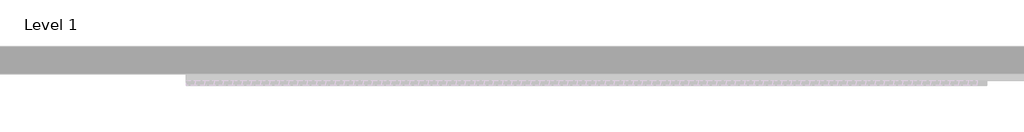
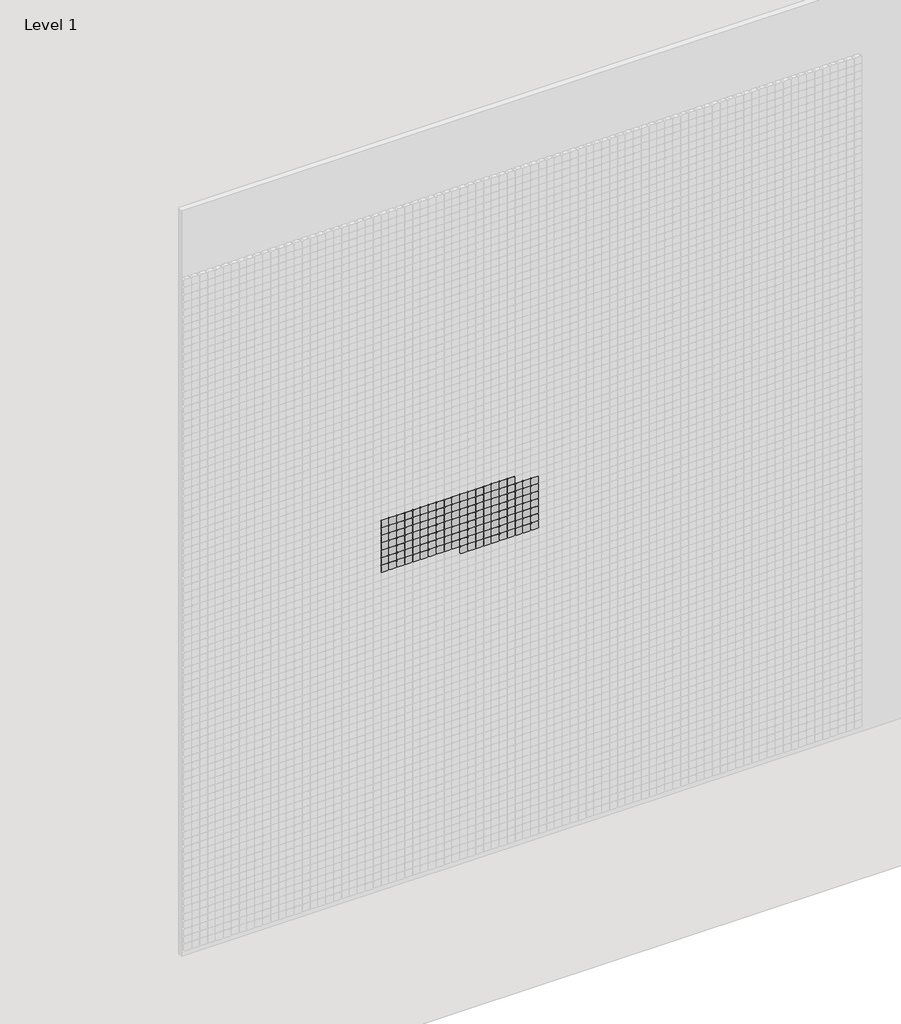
# One storey, part 28 of 71: 147 proxies.
"""IFC4 building model written with IfcOpenShell, lengths in millimetres."""

from ifc_helpers import new_model, si_unit, origin, place, context, project, spatial, transform, mapped, element, save
from components import generic_models_afde289c

model = new_model("IFC4")

# Units and contexts
model_context = context("Model", 3, world=origin())
ifc_project = project(units=[si_unit("LENGTHUNIT", "METRE", prefix="MILLI")], contexts=[model_context])

# Site, building, storey
site = spatial("IfcSite", under=ifc_project)
building = spatial("IfcBuilding", under=site)
storey = spatial("IfcBuildingStorey", under=building, Name="Level 1", Elevation=0.0)

# Proxies
placement = place(None, origin())
generic_models_shape = generic_models_afde289c(model_context)
element("IfcBuildingElementProxy", 1, Name="Pixel_M : Pixel_M", ObjectType="Pixel_M : Pixel_M", at=placement, inside=storey, context=model_context, shape_type="MappedRepresentation", body=[
    mapped(generic_models_shape, transform((6812.4280941, -75.0, 3466.3566215), x_axis=(1.0, 0.0, 0.0), y_axis=(0.0, 0.0, 1.0), z_axis=(0.0, -1.0, 0.0))),
])
element("IfcBuildingElementProxy", 2, Name="Pixel_M : Pixel_M", ObjectType="Pixel_M : Pixel_M", at=placement, inside=storey, context=model_context, shape_type="MappedRepresentation", body=[
    mapped(generic_models_shape, transform((6762.4280941, -75.0, 3466.3566215), x_axis=(1.0, 0.0, 0.0), y_axis=(0.0, 0.0, 1.0), z_axis=(0.0, -1.0, 0.0))),
])
element("IfcBuildingElementProxy", 3, Name="Pixel_M : Pixel_M", ObjectType="Pixel_M : Pixel_M", at=placement, inside=storey, context=model_context, shape_type="MappedRepresentation", body=[
    mapped(generic_models_shape, transform((6712.4280941, -75.0, 3466.3566215), x_axis=(1.0, 0.0, 0.0), y_axis=(0.0, 0.0, 1.0), z_axis=(0.0, -1.0, 0.0))),
])
element("IfcBuildingElementProxy", 4, Name="Pixel_M : Pixel_M", ObjectType="Pixel_M : Pixel_M", at=placement, inside=storey, context=model_context, shape_type="MappedRepresentation", body=[
    mapped(generic_models_shape, transform((6662.4280941, -75.0, 3466.3566215), x_axis=(1.0, 0.0, 0.0), y_axis=(0.0, 0.0, 1.0), z_axis=(0.0, -1.0, 0.0))),
])
element("IfcBuildingElementProxy", 5, Name="Pixel_M : Pixel_M", ObjectType="Pixel_M : Pixel_M", at=placement, inside=storey, context=model_context, shape_type="MappedRepresentation", body=[
    mapped(generic_models_shape, transform((6612.4280941, -75.0, 3466.3566215), x_axis=(1.0, 0.0, 0.0), y_axis=(0.0, 0.0, 1.0), z_axis=(0.0, -1.0, 0.0))),
])
element("IfcBuildingElementProxy", 6, Name="Pixel_M : Pixel_M", ObjectType="Pixel_M : Pixel_M", at=placement, inside=storey, context=model_context, shape_type="MappedRepresentation", body=[
    mapped(generic_models_shape, transform((6562.4280941, -75.0, 3466.3566215), x_axis=(1.0, 0.0, 0.0), y_axis=(0.0, 0.0, 1.0), z_axis=(0.0, -1.0, 0.0))),
])
element("IfcBuildingElementProxy", 7, Name="Pixel_M : Pixel_M", ObjectType="Pixel_M : Pixel_M", at=placement, inside=storey, context=model_context, shape_type="MappedRepresentation", body=[
    mapped(generic_models_shape, transform((6512.4280941, -75.0, 3466.3566215), x_axis=(1.0, 0.0, 0.0), y_axis=(0.0, 0.0, 1.0), z_axis=(0.0, -1.0, 0.0))),
])
element("IfcBuildingElementProxy", 8, Name="Pixel_M : Pixel_M", ObjectType="Pixel_M : Pixel_M", at=placement, inside=storey, context=model_context, shape_type="MappedRepresentation", body=[
    mapped(generic_models_shape, transform((6462.4280941, -75.0, 3466.3566215), x_axis=(1.0, 0.0, 0.0), y_axis=(0.0, 0.0, 1.0), z_axis=(0.0, -1.0, 0.0))),
])
element("IfcBuildingElementProxy", 9, Name="Pixel_M : Pixel_M", ObjectType="Pixel_M : Pixel_M", at=placement, inside=storey, context=model_context, shape_type="MappedRepresentation", body=[
    mapped(generic_models_shape, transform((6412.4280941, -75.0, 3466.3566215), x_axis=(1.0, 0.0, 0.0), y_axis=(0.0, 0.0, 1.0), z_axis=(0.0, -1.0, 0.0))),
])
element("IfcBuildingElementProxy", 10, Name="Pixel_M : Pixel_M", ObjectType="Pixel_M : Pixel_M", at=placement, inside=storey, context=model_context, shape_type="MappedRepresentation", body=[
    mapped(generic_models_shape, transform((6362.4280941, -75.0, 3466.3566215), x_axis=(1.0, 0.0, 0.0), y_axis=(0.0, 0.0, 1.0), z_axis=(0.0, -1.0, 0.0))),
])
element("IfcBuildingElementProxy", 11, Name="Pixel_M : Pixel_M", ObjectType="Pixel_M : Pixel_M", at=placement, inside=storey, context=model_context, shape_type="MappedRepresentation", body=[
    mapped(generic_models_shape, transform((6312.4280941, -75.0, 3466.3566215), x_axis=(1.0, 0.0, 0.0), y_axis=(0.0, 0.0, 1.0), z_axis=(0.0, -1.0, 0.0))),
])
element("IfcBuildingElementProxy", 12, Name="Pixel_M : Pixel_M", ObjectType="Pixel_M : Pixel_M", at=placement, inside=storey, context=model_context, shape_type="MappedRepresentation", body=[
    mapped(generic_models_shape, transform((6262.4280941, -75.0, 3466.3566215), x_axis=(1.0, 0.0, 0.0), y_axis=(0.0, 0.0, 1.0), z_axis=(0.0, -1.0, 0.0))),
])
element("IfcBuildingElementProxy", 13, Name="Pixel_M : Pixel_M", ObjectType="Pixel_M : Pixel_M", at=placement, inside=storey, context=model_context, shape_type="MappedRepresentation", body=[
    mapped(generic_models_shape, transform((6212.4280941, -75.0, 3466.3566215), x_axis=(1.0, 0.0, 0.0), y_axis=(0.0, 0.0, 1.0), z_axis=(0.0, -1.0, 0.0))),
])
element("IfcBuildingElementProxy", 14, Name="Pixel_M : Pixel_M", ObjectType="Pixel_M : Pixel_M", at=placement, inside=storey, context=model_context, shape_type="MappedRepresentation", body=[
    mapped(generic_models_shape, transform((6162.4280941, -75.0, 3466.3566215), x_axis=(1.0, 0.0, 0.0), y_axis=(0.0, 0.0, 1.0), z_axis=(0.0, -1.0, 0.0))),
])
element("IfcBuildingElementProxy", 15, Name="Pixel_M : Pixel_M", ObjectType="Pixel_M : Pixel_M", at=placement, inside=storey, context=model_context, shape_type="MappedRepresentation", body=[
    mapped(generic_models_shape, transform((6112.4280941, -75.0, 3466.3566215), x_axis=(1.0, 0.0, 0.0), y_axis=(0.0, 0.0, 1.0), z_axis=(0.0, -1.0, 0.0))),
])
element("IfcBuildingElementProxy", 16, Name="Pixel_M : Pixel_M", ObjectType="Pixel_M : Pixel_M", at=placement, inside=storey, context=model_context, shape_type="MappedRepresentation", body=[
    mapped(generic_models_shape, transform((6062.4280941, -75.0, 3466.3566215), x_axis=(1.0, 0.0, 0.0), y_axis=(0.0, 0.0, 1.0), z_axis=(0.0, -1.0, 0.0))),
])
element("IfcBuildingElementProxy", 17, Name="Pixel_M : Pixel_M", ObjectType="Pixel_M : Pixel_M", at=placement, inside=storey, context=model_context, shape_type="MappedRepresentation", body=[
    mapped(generic_models_shape, transform((6012.4280941, -75.0, 3466.3566215), x_axis=(1.0, 0.0, 0.0), y_axis=(0.0, 0.0, 1.0), z_axis=(0.0, -1.0, 0.0))),
])
element("IfcBuildingElementProxy", 18, Name="Pixel_M : Pixel_M", ObjectType="Pixel_M : Pixel_M", at=placement, inside=storey, context=model_context, shape_type="MappedRepresentation", body=[
    mapped(generic_models_shape, transform((6962.4280941, -75.0, 3416.3566215), x_axis=(1.0, 0.0, 0.0), y_axis=(0.0, 0.0, 1.0), z_axis=(0.0, -1.0, 0.0))),
])
element("IfcBuildingElementProxy", 19, Name="Pixel_M : Pixel_M", ObjectType="Pixel_M : Pixel_M", at=placement, inside=storey, context=model_context, shape_type="MappedRepresentation", body=[
    mapped(generic_models_shape, transform((6912.4280941, -75.0, 3416.3566215), x_axis=(1.0, 0.0, 0.0), y_axis=(0.0, 0.0, 1.0), z_axis=(0.0, -1.0, 0.0))),
])
element("IfcBuildingElementProxy", 20, Name="Pixel_M : Pixel_M", ObjectType="Pixel_M : Pixel_M", at=placement, inside=storey, context=model_context, shape_type="MappedRepresentation", body=[
    mapped(generic_models_shape, transform((6862.4280941, -75.0, 3416.3566215), x_axis=(1.0, 0.0, 0.0), y_axis=(0.0, 0.0, 1.0), z_axis=(0.0, -1.0, 0.0))),
])
element("IfcBuildingElementProxy", 21, Name="Pixel_M : Pixel_M", ObjectType="Pixel_M : Pixel_M", at=placement, inside=storey, context=model_context, shape_type="MappedRepresentation", body=[
    mapped(generic_models_shape, transform((6812.4280941, -75.0, 3416.3566215), x_axis=(1.0, 0.0, 0.0), y_axis=(0.0, 0.0, 1.0), z_axis=(0.0, -1.0, 0.0))),
])
element("IfcBuildingElementProxy", 22, Name="Pixel_M : Pixel_M", ObjectType="Pixel_M : Pixel_M", at=placement, inside=storey, context=model_context, shape_type="MappedRepresentation", body=[
    mapped(generic_models_shape, transform((6762.4280941, -75.0, 3416.3566215), x_axis=(1.0, 0.0, 0.0), y_axis=(0.0, 0.0, 1.0), z_axis=(0.0, -1.0, 0.0))),
])
element("IfcBuildingElementProxy", 23, Name="Pixel_M : Pixel_M", ObjectType="Pixel_M : Pixel_M", at=placement, inside=storey, context=model_context, shape_type="MappedRepresentation", body=[
    mapped(generic_models_shape, transform((6712.4280941, -75.0, 3416.3566215), x_axis=(1.0, 0.0, 0.0), y_axis=(0.0, 0.0, 1.0), z_axis=(0.0, -1.0, 0.0))),
])
element("IfcBuildingElementProxy", 24, Name="Pixel_M : Pixel_M", ObjectType="Pixel_M : Pixel_M", at=placement, inside=storey, context=model_context, shape_type="MappedRepresentation", body=[
    mapped(generic_models_shape, transform((6662.4280941, -75.0, 3416.3566215), x_axis=(1.0, 0.0, 0.0), y_axis=(0.0, 0.0, 1.0), z_axis=(0.0, -1.0, 0.0))),
])
element("IfcBuildingElementProxy", 25, Name="Pixel_M : Pixel_M", ObjectType="Pixel_M : Pixel_M", at=placement, inside=storey, context=model_context, shape_type="MappedRepresentation", body=[
    mapped(generic_models_shape, transform((6612.4280941, -75.0, 3416.3566215), x_axis=(1.0, 0.0, 0.0), y_axis=(0.0, 0.0, 1.0), z_axis=(0.0, -1.0, 0.0))),
])
element("IfcBuildingElementProxy", 26, Name="Pixel_M : Pixel_M", ObjectType="Pixel_M : Pixel_M", at=placement, inside=storey, context=model_context, shape_type="MappedRepresentation", body=[
    mapped(generic_models_shape, transform((6562.4280941, -75.0, 3416.3566215), x_axis=(1.0, 0.0, 0.0), y_axis=(0.0, 0.0, 1.0), z_axis=(0.0, -1.0, 0.0))),
])
element("IfcBuildingElementProxy", 27, Name="Pixel_M : Pixel_M", ObjectType="Pixel_M : Pixel_M", at=placement, inside=storey, context=model_context, shape_type="MappedRepresentation", body=[
    mapped(generic_models_shape, transform((6512.4280941, -75.0, 3416.3566215), x_axis=(1.0, 0.0, 0.0), y_axis=(0.0, 0.0, 1.0), z_axis=(0.0, -1.0, 0.0))),
])
element("IfcBuildingElementProxy", 28, Name="Pixel_M : Pixel_M", ObjectType="Pixel_M : Pixel_M", at=placement, inside=storey, context=model_context, shape_type="MappedRepresentation", body=[
    mapped(generic_models_shape, transform((6462.4280941, -75.0, 3416.3566215), x_axis=(1.0, 0.0, 0.0), y_axis=(0.0, 0.0, 1.0), z_axis=(0.0, -1.0, 0.0))),
])
element("IfcBuildingElementProxy", 29, Name="Pixel_M : Pixel_M", ObjectType="Pixel_M : Pixel_M", at=placement, inside=storey, context=model_context, shape_type="MappedRepresentation", body=[
    mapped(generic_models_shape, transform((6412.4280941, -75.0, 3416.3566215), x_axis=(1.0, 0.0, 0.0), y_axis=(0.0, 0.0, 1.0), z_axis=(0.0, -1.0, 0.0))),
])
element("IfcBuildingElementProxy", 30, Name="Pixel_M : Pixel_M", ObjectType="Pixel_M : Pixel_M", at=placement, inside=storey, context=model_context, shape_type="MappedRepresentation", body=[
    mapped(generic_models_shape, transform((6362.4280941, -75.0, 3416.3566215), x_axis=(1.0, 0.0, 0.0), y_axis=(0.0, 0.0, 1.0), z_axis=(0.0, -1.0, 0.0))),
])
element("IfcBuildingElementProxy", 31, Name="Pixel_M : Pixel_M", ObjectType="Pixel_M : Pixel_M", at=placement, inside=storey, context=model_context, shape_type="MappedRepresentation", body=[
    mapped(generic_models_shape, transform((6312.4280941, -75.0, 3416.3566215), x_axis=(1.0, 0.0, 0.0), y_axis=(0.0, 0.0, 1.0), z_axis=(0.0, -1.0, 0.0))),
])
element("IfcBuildingElementProxy", 32, Name="Pixel_M : Pixel_M", ObjectType="Pixel_M : Pixel_M", at=placement, inside=storey, context=model_context, shape_type="MappedRepresentation", body=[
    mapped(generic_models_shape, transform((6262.4280941, -75.0, 3416.3566215), x_axis=(1.0, 0.0, 0.0), y_axis=(0.0, 0.0, 1.0), z_axis=(0.0, -1.0, 0.0))),
])
element("IfcBuildingElementProxy", 33, Name="Pixel_M : Pixel_M", ObjectType="Pixel_M : Pixel_M", at=placement, inside=storey, context=model_context, shape_type="MappedRepresentation", body=[
    mapped(generic_models_shape, transform((6212.4280941, -75.0, 3416.3566215), x_axis=(1.0, 0.0, 0.0), y_axis=(0.0, 0.0, 1.0), z_axis=(0.0, -1.0, 0.0))),
])
element("IfcBuildingElementProxy", 34, Name="Pixel_M : Pixel_M", ObjectType="Pixel_M : Pixel_M", at=placement, inside=storey, context=model_context, shape_type="MappedRepresentation", body=[
    mapped(generic_models_shape, transform((6162.4280941, -75.0, 3416.3566215), x_axis=(1.0, 0.0, 0.0), y_axis=(0.0, 0.0, 1.0), z_axis=(0.0, -1.0, 0.0))),
])
element("IfcBuildingElementProxy", 35, Name="Pixel_M : Pixel_M", ObjectType="Pixel_M : Pixel_M", at=placement, inside=storey, context=model_context, shape_type="MappedRepresentation", body=[
    mapped(generic_models_shape, transform((6112.4280941, -75.0, 3416.3566215), x_axis=(1.0, 0.0, 0.0), y_axis=(0.0, 0.0, 1.0), z_axis=(0.0, -1.0, 0.0))),
])
element("IfcBuildingElementProxy", 36, Name="Pixel_M : Pixel_M", ObjectType="Pixel_M : Pixel_M", at=placement, inside=storey, context=model_context, shape_type="MappedRepresentation", body=[
    mapped(generic_models_shape, transform((6062.4280941, -75.0, 3416.3566215), x_axis=(1.0, 0.0, 0.0), y_axis=(0.0, 0.0, 1.0), z_axis=(0.0, -1.0, 0.0))),
])
element("IfcBuildingElementProxy", 37, Name="Pixel_M : Pixel_M", ObjectType="Pixel_M : Pixel_M", at=placement, inside=storey, context=model_context, shape_type="MappedRepresentation", body=[
    mapped(generic_models_shape, transform((6012.4280941, -75.0, 3416.3566215), x_axis=(1.0, 0.0, 0.0), y_axis=(0.0, 0.0, 1.0), z_axis=(0.0, -1.0, 0.0))),
])
element("IfcBuildingElementProxy", 38, Name="Pixel_M : Pixel_M", ObjectType="Pixel_M : Pixel_M", at=placement, inside=storey, context=model_context, shape_type="MappedRepresentation", body=[
    mapped(generic_models_shape, transform((6962.4280941, -75.0, 3366.3566215), x_axis=(1.0, 0.0, 0.0), y_axis=(0.0, 0.0, 1.0), z_axis=(0.0, -1.0, 0.0))),
])
element("IfcBuildingElementProxy", 39, Name="Pixel_M : Pixel_M", ObjectType="Pixel_M : Pixel_M", at=placement, inside=storey, context=model_context, shape_type="MappedRepresentation", body=[
    mapped(generic_models_shape, transform((6912.4280941, -75.0, 3366.3566215), x_axis=(1.0, 0.0, 0.0), y_axis=(0.0, 0.0, 1.0), z_axis=(0.0, -1.0, 0.0))),
])
element("IfcBuildingElementProxy", 40, Name="Pixel_M : Pixel_M", ObjectType="Pixel_M : Pixel_M", at=placement, inside=storey, context=model_context, shape_type="MappedRepresentation", body=[
    mapped(generic_models_shape, transform((6862.4280941, -75.0, 3366.3566215), x_axis=(1.0, 0.0, 0.0), y_axis=(0.0, 0.0, 1.0), z_axis=(0.0, -1.0, 0.0))),
])
element("IfcBuildingElementProxy", 41, Name="Pixel_M : Pixel_M", ObjectType="Pixel_M : Pixel_M", at=placement, inside=storey, context=model_context, shape_type="MappedRepresentation", body=[
    mapped(generic_models_shape, transform((6812.4280941, -75.0, 3366.3566215), x_axis=(1.0, 0.0, 0.0), y_axis=(0.0, 0.0, 1.0), z_axis=(0.0, -1.0, 0.0))),
])
element("IfcBuildingElementProxy", 42, Name="Pixel_M : Pixel_M", ObjectType="Pixel_M : Pixel_M", at=placement, inside=storey, context=model_context, shape_type="MappedRepresentation", body=[
    mapped(generic_models_shape, transform((6762.4280941, -75.0, 3366.3566215), x_axis=(1.0, 0.0, 0.0), y_axis=(0.0, 0.0, 1.0), z_axis=(0.0, -1.0, 0.0))),
])
element("IfcBuildingElementProxy", 43, Name="Pixel_M : Pixel_M", ObjectType="Pixel_M : Pixel_M", at=placement, inside=storey, context=model_context, shape_type="MappedRepresentation", body=[
    mapped(generic_models_shape, transform((6712.4280941, -75.0, 3366.3566215), x_axis=(1.0, 0.0, 0.0), y_axis=(0.0, 0.0, 1.0), z_axis=(0.0, -1.0, 0.0))),
])
element("IfcBuildingElementProxy", 44, Name="Pixel_M : Pixel_M", ObjectType="Pixel_M : Pixel_M", at=placement, inside=storey, context=model_context, shape_type="MappedRepresentation", body=[
    mapped(generic_models_shape, transform((6662.4280941, -75.0, 3366.3566215), x_axis=(1.0, 0.0, 0.0), y_axis=(0.0, 0.0, 1.0), z_axis=(0.0, -1.0, 0.0))),
])
element("IfcBuildingElementProxy", 45, Name="Pixel_M : Pixel_M", ObjectType="Pixel_M : Pixel_M", at=placement, inside=storey, context=model_context, shape_type="MappedRepresentation", body=[
    mapped(generic_models_shape, transform((6612.4280941, -75.0, 3366.3566215), x_axis=(1.0, 0.0, 0.0), y_axis=(0.0, 0.0, 1.0), z_axis=(0.0, -1.0, 0.0))),
])
element("IfcBuildingElementProxy", 46, Name="Pixel_M : Pixel_M", ObjectType="Pixel_M : Pixel_M", at=placement, inside=storey, context=model_context, shape_type="MappedRepresentation", body=[
    mapped(generic_models_shape, transform((6562.4280941, -75.0, 3366.3566215), x_axis=(1.0, 0.0, 0.0), y_axis=(0.0, 0.0, 1.0), z_axis=(0.0, -1.0, 0.0))),
])
element("IfcBuildingElementProxy", 47, Name="Pixel_M : Pixel_M", ObjectType="Pixel_M : Pixel_M", at=placement, inside=storey, context=model_context, shape_type="MappedRepresentation", body=[
    mapped(generic_models_shape, transform((6512.4280941, -75.0, 3366.3566215), x_axis=(1.0, 0.0, 0.0), y_axis=(0.0, 0.0, 1.0), z_axis=(0.0, -1.0, 0.0))),
])
element("IfcBuildingElementProxy", 48, Name="Pixel_M : Pixel_M", ObjectType="Pixel_M : Pixel_M", at=placement, inside=storey, context=model_context, shape_type="MappedRepresentation", body=[
    mapped(generic_models_shape, transform((6462.4280941, -75.0, 3366.3566215), x_axis=(1.0, 0.0, 0.0), y_axis=(0.0, 0.0, 1.0), z_axis=(0.0, -1.0, 0.0))),
])
element("IfcBuildingElementProxy", 49, Name="Pixel_M : Pixel_M", ObjectType="Pixel_M : Pixel_M", at=placement, inside=storey, context=model_context, shape_type="MappedRepresentation", body=[
    mapped(generic_models_shape, transform((6412.4280941, -75.0, 3366.3566215), x_axis=(1.0, 0.0, 0.0), y_axis=(0.0, 0.0, 1.0), z_axis=(0.0, -1.0, 0.0))),
])
element("IfcBuildingElementProxy", 50, Name="Pixel_M : Pixel_M", ObjectType="Pixel_M : Pixel_M", at=placement, inside=storey, context=model_context, shape_type="MappedRepresentation", body=[
    mapped(generic_models_shape, transform((6362.4280941, -75.0, 3366.3566215), x_axis=(1.0, 0.0, 0.0), y_axis=(0.0, 0.0, 1.0), z_axis=(0.0, -1.0, 0.0))),
])
element("IfcBuildingElementProxy", 51, Name="Pixel_M : Pixel_M", ObjectType="Pixel_M : Pixel_M", at=placement, inside=storey, context=model_context, shape_type="MappedRepresentation", body=[
    mapped(generic_models_shape, transform((6312.4280941, -75.0, 3366.3566215), x_axis=(1.0, 0.0, 0.0), y_axis=(0.0, 0.0, 1.0), z_axis=(0.0, -1.0, 0.0))),
])
element("IfcBuildingElementProxy", 52, Name="Pixel_M : Pixel_M", ObjectType="Pixel_M : Pixel_M", at=placement, inside=storey, context=model_context, shape_type="MappedRepresentation", body=[
    mapped(generic_models_shape, transform((6262.4280941, -75.0, 3366.3566215), x_axis=(1.0, 0.0, 0.0), y_axis=(0.0, 0.0, 1.0), z_axis=(0.0, -1.0, 0.0))),
])
element("IfcBuildingElementProxy", 53, Name="Pixel_M : Pixel_M", ObjectType="Pixel_M : Pixel_M", at=placement, inside=storey, context=model_context, shape_type="MappedRepresentation", body=[
    mapped(generic_models_shape, transform((6212.4280941, -75.0, 3366.3566215), x_axis=(1.0, 0.0, 0.0), y_axis=(0.0, 0.0, 1.0), z_axis=(0.0, -1.0, 0.0))),
])
element("IfcBuildingElementProxy", 54, Name="Pixel_M : Pixel_M", ObjectType="Pixel_M : Pixel_M", at=placement, inside=storey, context=model_context, shape_type="MappedRepresentation", body=[
    mapped(generic_models_shape, transform((6162.4280941, -75.0, 3366.3566215), x_axis=(1.0, 0.0, 0.0), y_axis=(0.0, 0.0, 1.0), z_axis=(0.0, -1.0, 0.0))),
])
element("IfcBuildingElementProxy", 55, Name="Pixel_M : Pixel_M", ObjectType="Pixel_M : Pixel_M", at=placement, inside=storey, context=model_context, shape_type="MappedRepresentation", body=[
    mapped(generic_models_shape, transform((6112.4280941, -75.0, 3366.3566215), x_axis=(1.0, 0.0, 0.0), y_axis=(0.0, 0.0, 1.0), z_axis=(0.0, -1.0, 0.0))),
])
element("IfcBuildingElementProxy", 56, Name="Pixel_M : Pixel_M", ObjectType="Pixel_M : Pixel_M", at=placement, inside=storey, context=model_context, shape_type="MappedRepresentation", body=[
    mapped(generic_models_shape, transform((6062.4280941, -75.0, 3366.3566215), x_axis=(1.0, 0.0, 0.0), y_axis=(0.0, 0.0, 1.0), z_axis=(0.0, -1.0, 0.0))),
])
element("IfcBuildingElementProxy", 57, Name="Pixel_M : Pixel_M", ObjectType="Pixel_M : Pixel_M", at=placement, inside=storey, context=model_context, shape_type="MappedRepresentation", body=[
    mapped(generic_models_shape, transform((6012.4280941, -75.0, 3366.3566215), x_axis=(1.0, 0.0, 0.0), y_axis=(0.0, 0.0, 1.0), z_axis=(0.0, -1.0, 0.0))),
])
element("IfcBuildingElementProxy", 58, Name="Pixel_M : Pixel_M", ObjectType="Pixel_M : Pixel_M", at=placement, inside=storey, context=model_context, shape_type="MappedRepresentation", body=[
    mapped(generic_models_shape, transform((6962.4280941, -75.0, 3316.3566215), x_axis=(1.0, 0.0, 0.0), y_axis=(0.0, 0.0, 1.0), z_axis=(0.0, -1.0, 0.0))),
])
element("IfcBuildingElementProxy", 59, Name="Pixel_M : Pixel_M", ObjectType="Pixel_M : Pixel_M", at=placement, inside=storey, context=model_context, shape_type="MappedRepresentation", body=[
    mapped(generic_models_shape, transform((6912.4280941, -75.0, 3316.3566215), x_axis=(1.0, 0.0, 0.0), y_axis=(0.0, 0.0, 1.0), z_axis=(0.0, -1.0, 0.0))),
])
element("IfcBuildingElementProxy", 60, Name="Pixel_M : Pixel_M", ObjectType="Pixel_M : Pixel_M", at=placement, inside=storey, context=model_context, shape_type="MappedRepresentation", body=[
    mapped(generic_models_shape, transform((6862.4280941, -75.0, 3316.3566215), x_axis=(1.0, 0.0, 0.0), y_axis=(0.0, 0.0, 1.0), z_axis=(0.0, -1.0, 0.0))),
])
element("IfcBuildingElementProxy", 61, Name="Pixel_M : Pixel_M", ObjectType="Pixel_M : Pixel_M", at=placement, inside=storey, context=model_context, shape_type="MappedRepresentation", body=[
    mapped(generic_models_shape, transform((6812.4280941, -75.0, 3316.3566215), x_axis=(1.0, 0.0, 0.0), y_axis=(0.0, 0.0, 1.0), z_axis=(0.0, -1.0, 0.0))),
])
element("IfcBuildingElementProxy", 62, Name="Pixel_M : Pixel_M", ObjectType="Pixel_M : Pixel_M", at=placement, inside=storey, context=model_context, shape_type="MappedRepresentation", body=[
    mapped(generic_models_shape, transform((6762.4280941, -75.0, 3316.3566215), x_axis=(1.0, 0.0, 0.0), y_axis=(0.0, 0.0, 1.0), z_axis=(0.0, -1.0, 0.0))),
])
element("IfcBuildingElementProxy", 63, Name="Pixel_M : Pixel_M", ObjectType="Pixel_M : Pixel_M", at=placement, inside=storey, context=model_context, shape_type="MappedRepresentation", body=[
    mapped(generic_models_shape, transform((6712.4280941, -75.0, 3316.3566215), x_axis=(1.0, 0.0, 0.0), y_axis=(0.0, 0.0, 1.0), z_axis=(0.0, -1.0, 0.0))),
])
element("IfcBuildingElementProxy", 64, Name="Pixel_M : Pixel_M", ObjectType="Pixel_M : Pixel_M", at=placement, inside=storey, context=model_context, shape_type="MappedRepresentation", body=[
    mapped(generic_models_shape, transform((6662.4280941, -75.0, 3316.3566215), x_axis=(1.0, 0.0, 0.0), y_axis=(0.0, 0.0, 1.0), z_axis=(0.0, -1.0, 0.0))),
])
element("IfcBuildingElementProxy", 65, Name="Pixel_M : Pixel_M", ObjectType="Pixel_M : Pixel_M", at=placement, inside=storey, context=model_context, shape_type="MappedRepresentation", body=[
    mapped(generic_models_shape, transform((6612.4280941, -75.0, 3316.3566215), x_axis=(1.0, 0.0, 0.0), y_axis=(0.0, 0.0, 1.0), z_axis=(0.0, -1.0, 0.0))),
])
element("IfcBuildingElementProxy", 66, Name="Pixel_M : Pixel_M", ObjectType="Pixel_M : Pixel_M", at=placement, inside=storey, context=model_context, shape_type="MappedRepresentation", body=[
    mapped(generic_models_shape, transform((6562.4280941, -75.0, 3316.3566215), x_axis=(1.0, 0.0, 0.0), y_axis=(0.0, 0.0, 1.0), z_axis=(0.0, -1.0, 0.0))),
])
element("IfcBuildingElementProxy", 67, Name="Pixel_M : Pixel_M", ObjectType="Pixel_M : Pixel_M", at=placement, inside=storey, context=model_context, shape_type="MappedRepresentation", body=[
    mapped(generic_models_shape, transform((6512.4280941, -75.0, 3316.3566215), x_axis=(1.0, 0.0, 0.0), y_axis=(0.0, 0.0, 1.0), z_axis=(0.0, -1.0, 0.0))),
])
element("IfcBuildingElementProxy", 68, Name="Pixel_M : Pixel_M", ObjectType="Pixel_M : Pixel_M", at=placement, inside=storey, context=model_context, shape_type="MappedRepresentation", body=[
    mapped(generic_models_shape, transform((6462.4280941, -75.0, 3316.3566215), x_axis=(1.0, 0.0, 0.0), y_axis=(0.0, 0.0, 1.0), z_axis=(0.0, -1.0, 0.0))),
])
element("IfcBuildingElementProxy", 69, Name="Pixel_M : Pixel_M", ObjectType="Pixel_M : Pixel_M", at=placement, inside=storey, context=model_context, shape_type="MappedRepresentation", body=[
    mapped(generic_models_shape, transform((6412.4280941, -75.0, 3316.3566215), x_axis=(1.0, 0.0, 0.0), y_axis=(0.0, 0.0, 1.0), z_axis=(0.0, -1.0, 0.0))),
])
element("IfcBuildingElementProxy", 70, Name="Pixel_M : Pixel_M", ObjectType="Pixel_M : Pixel_M", at=placement, inside=storey, context=model_context, shape_type="MappedRepresentation", body=[
    mapped(generic_models_shape, transform((6362.4280941, -75.0, 3316.3566215), x_axis=(1.0, 0.0, 0.0), y_axis=(0.0, 0.0, 1.0), z_axis=(0.0, -1.0, 0.0))),
])
element("IfcBuildingElementProxy", 71, Name="Pixel_M : Pixel_M", ObjectType="Pixel_M : Pixel_M", at=placement, inside=storey, context=model_context, shape_type="MappedRepresentation", body=[
    mapped(generic_models_shape, transform((6312.4280941, -75.0, 3316.3566215), x_axis=(1.0, 0.0, 0.0), y_axis=(0.0, 0.0, 1.0), z_axis=(0.0, -1.0, 0.0))),
])
element("IfcBuildingElementProxy", 72, Name="Pixel_M : Pixel_M", ObjectType="Pixel_M : Pixel_M", at=placement, inside=storey, context=model_context, shape_type="MappedRepresentation", body=[
    mapped(generic_models_shape, transform((6262.4280941, -75.0, 3316.3566215), x_axis=(1.0, 0.0, 0.0), y_axis=(0.0, 0.0, 1.0), z_axis=(0.0, -1.0, 0.0))),
])
element("IfcBuildingElementProxy", 73, Name="Pixel_M : Pixel_M", ObjectType="Pixel_M : Pixel_M", at=placement, inside=storey, context=model_context, shape_type="MappedRepresentation", body=[
    mapped(generic_models_shape, transform((6212.4280941, -75.0, 3316.3566215), x_axis=(1.0, 0.0, 0.0), y_axis=(0.0, 0.0, 1.0), z_axis=(0.0, -1.0, 0.0))),
])
element("IfcBuildingElementProxy", 74, Name="Pixel_M : Pixel_M", ObjectType="Pixel_M : Pixel_M", at=placement, inside=storey, context=model_context, shape_type="MappedRepresentation", body=[
    mapped(generic_models_shape, transform((6162.4280941, -75.0, 3316.3566215), x_axis=(1.0, 0.0, 0.0), y_axis=(0.0, 0.0, 1.0), z_axis=(0.0, -1.0, 0.0))),
])
element("IfcBuildingElementProxy", 75, Name="Pixel_M : Pixel_M", ObjectType="Pixel_M : Pixel_M", at=placement, inside=storey, context=model_context, shape_type="MappedRepresentation", body=[
    mapped(generic_models_shape, transform((6112.4280941, -75.0, 3316.3566215), x_axis=(1.0, 0.0, 0.0), y_axis=(0.0, 0.0, 1.0), z_axis=(0.0, -1.0, 0.0))),
])
element("IfcBuildingElementProxy", 76, Name="Pixel_M : Pixel_M", ObjectType="Pixel_M : Pixel_M", at=placement, inside=storey, context=model_context, shape_type="MappedRepresentation", body=[
    mapped(generic_models_shape, transform((6062.4280941, -75.0, 3316.3566215), x_axis=(1.0, 0.0, 0.0), y_axis=(0.0, 0.0, 1.0), z_axis=(0.0, -1.0, 0.0))),
])
element("IfcBuildingElementProxy", 77, Name="Pixel_M : Pixel_M", ObjectType="Pixel_M : Pixel_M", at=placement, inside=storey, context=model_context, shape_type="MappedRepresentation", body=[
    mapped(generic_models_shape, transform((6012.4280941, -75.0, 3316.3566215), x_axis=(1.0, 0.0, 0.0), y_axis=(0.0, 0.0, 1.0), z_axis=(0.0, -1.0, 0.0))),
])
element("IfcBuildingElementProxy", 78, Name="Pixel_M : Pixel_M", ObjectType="Pixel_M : Pixel_M", at=placement, inside=storey, context=model_context, shape_type="MappedRepresentation", body=[
    mapped(generic_models_shape, transform((6962.4280941, -75.0, 3266.3566215), x_axis=(1.0, 0.0, 0.0), y_axis=(0.0, 0.0, 1.0), z_axis=(0.0, -1.0, 0.0))),
])
element("IfcBuildingElementProxy", 79, Name="Pixel_M : Pixel_M", ObjectType="Pixel_M : Pixel_M", at=placement, inside=storey, context=model_context, shape_type="MappedRepresentation", body=[
    mapped(generic_models_shape, transform((6912.4280941, -75.0, 3266.3566215), x_axis=(1.0, 0.0, 0.0), y_axis=(0.0, 0.0, 1.0), z_axis=(0.0, -1.0, 0.0))),
])
element("IfcBuildingElementProxy", 80, Name="Pixel_M : Pixel_M", ObjectType="Pixel_M : Pixel_M", at=placement, inside=storey, context=model_context, shape_type="MappedRepresentation", body=[
    mapped(generic_models_shape, transform((6862.4280941, -75.0, 3266.3566215), x_axis=(1.0, 0.0, 0.0), y_axis=(0.0, 0.0, 1.0), z_axis=(0.0, -1.0, 0.0))),
])
element("IfcBuildingElementProxy", 81, Name="Pixel_M : Pixel_M", ObjectType="Pixel_M : Pixel_M", at=placement, inside=storey, context=model_context, shape_type="MappedRepresentation", body=[
    mapped(generic_models_shape, transform((6812.4280941, -75.0, 3266.3566215), x_axis=(1.0, 0.0, 0.0), y_axis=(0.0, 0.0, 1.0), z_axis=(0.0, -1.0, 0.0))),
])
element("IfcBuildingElementProxy", 82, Name="Pixel_M : Pixel_M", ObjectType="Pixel_M : Pixel_M", at=placement, inside=storey, context=model_context, shape_type="MappedRepresentation", body=[
    mapped(generic_models_shape, transform((6762.4280941, -75.0, 3266.3566215), x_axis=(1.0, 0.0, 0.0), y_axis=(0.0, 0.0, 1.0), z_axis=(0.0, -1.0, 0.0))),
])
element("IfcBuildingElementProxy", 83, Name="Pixel_M : Pixel_M", ObjectType="Pixel_M : Pixel_M", at=placement, inside=storey, context=model_context, shape_type="MappedRepresentation", body=[
    mapped(generic_models_shape, transform((6712.4280941, -75.0, 3266.3566215), x_axis=(1.0, 0.0, 0.0), y_axis=(0.0, 0.0, 1.0), z_axis=(0.0, -1.0, 0.0))),
])
element("IfcBuildingElementProxy", 84, Name="Pixel_M : Pixel_M", ObjectType="Pixel_M : Pixel_M", at=placement, inside=storey, context=model_context, shape_type="MappedRepresentation", body=[
    mapped(generic_models_shape, transform((6662.4280941, -75.0, 3266.3566215), x_axis=(1.0, 0.0, 0.0), y_axis=(0.0, 0.0, 1.0), z_axis=(0.0, -1.0, 0.0))),
])
element("IfcBuildingElementProxy", 85, Name="Pixel_M : Pixel_M", ObjectType="Pixel_M : Pixel_M", at=placement, inside=storey, context=model_context, shape_type="MappedRepresentation", body=[
    mapped(generic_models_shape, transform((6612.4280941, -75.0, 3266.3566215), x_axis=(1.0, 0.0, 0.0), y_axis=(0.0, 0.0, 1.0), z_axis=(0.0, -1.0, 0.0))),
])
element("IfcBuildingElementProxy", 86, Name="Pixel_M : Pixel_M", ObjectType="Pixel_M : Pixel_M", at=placement, inside=storey, context=model_context, shape_type="MappedRepresentation", body=[
    mapped(generic_models_shape, transform((6562.4280941, -75.0, 3266.3566215), x_axis=(1.0, 0.0, 0.0), y_axis=(0.0, 0.0, 1.0), z_axis=(0.0, -1.0, 0.0))),
])
element("IfcBuildingElementProxy", 87, Name="Pixel_M : Pixel_M", ObjectType="Pixel_M : Pixel_M", at=placement, inside=storey, context=model_context, shape_type="MappedRepresentation", body=[
    mapped(generic_models_shape, transform((6512.4280941, -75.0, 3266.3566215), x_axis=(1.0, 0.0, 0.0), y_axis=(0.0, 0.0, 1.0), z_axis=(0.0, -1.0, 0.0))),
])
element("IfcBuildingElementProxy", 88, Name="Pixel_M : Pixel_M", ObjectType="Pixel_M : Pixel_M", at=placement, inside=storey, context=model_context, shape_type="MappedRepresentation", body=[
    mapped(generic_models_shape, transform((6462.4280941, -75.0, 3266.3566215), x_axis=(1.0, 0.0, 0.0), y_axis=(0.0, 0.0, 1.0), z_axis=(0.0, -1.0, 0.0))),
])
element("IfcBuildingElementProxy", 89, Name="Pixel_M : Pixel_M", ObjectType="Pixel_M : Pixel_M", at=placement, inside=storey, context=model_context, shape_type="MappedRepresentation", body=[
    mapped(generic_models_shape, transform((6412.4280941, -75.0, 3266.3566215), x_axis=(1.0, 0.0, 0.0), y_axis=(0.0, 0.0, 1.0), z_axis=(0.0, -1.0, 0.0))),
])
element("IfcBuildingElementProxy", 90, Name="Pixel_M : Pixel_M", ObjectType="Pixel_M : Pixel_M", at=placement, inside=storey, context=model_context, shape_type="MappedRepresentation", body=[
    mapped(generic_models_shape, transform((6362.4280941, -75.0, 3266.3566215), x_axis=(1.0, 0.0, 0.0), y_axis=(0.0, 0.0, 1.0), z_axis=(0.0, -1.0, 0.0))),
])
element("IfcBuildingElementProxy", 91, Name="Pixel_M : Pixel_M", ObjectType="Pixel_M : Pixel_M", at=placement, inside=storey, context=model_context, shape_type="MappedRepresentation", body=[
    mapped(generic_models_shape, transform((6312.4280941, -75.0, 3266.3566215), x_axis=(1.0, 0.0, 0.0), y_axis=(0.0, 0.0, 1.0), z_axis=(0.0, -1.0, 0.0))),
])
element("IfcBuildingElementProxy", 92, Name="Pixel_M : Pixel_M", ObjectType="Pixel_M : Pixel_M", at=placement, inside=storey, context=model_context, shape_type="MappedRepresentation", body=[
    mapped(generic_models_shape, transform((6262.4280941, -75.0, 3266.3566215), x_axis=(1.0, 0.0, 0.0), y_axis=(0.0, 0.0, 1.0), z_axis=(0.0, -1.0, 0.0))),
])
element("IfcBuildingElementProxy", 93, Name="Pixel_M : Pixel_M", ObjectType="Pixel_M : Pixel_M", at=placement, inside=storey, context=model_context, shape_type="MappedRepresentation", body=[
    mapped(generic_models_shape, transform((6212.4280941, -75.0, 3266.3566215), x_axis=(1.0, 0.0, 0.0), y_axis=(0.0, 0.0, 1.0), z_axis=(0.0, -1.0, 0.0))),
])
element("IfcBuildingElementProxy", 94, Name="Pixel_M : Pixel_M", ObjectType="Pixel_M : Pixel_M", at=placement, inside=storey, context=model_context, shape_type="MappedRepresentation", body=[
    mapped(generic_models_shape, transform((6162.4280941, -75.0, 3266.3566215), x_axis=(1.0, 0.0, 0.0), y_axis=(0.0, 0.0, 1.0), z_axis=(0.0, -1.0, 0.0))),
])
element("IfcBuildingElementProxy", 95, Name="Pixel_M : Pixel_M", ObjectType="Pixel_M : Pixel_M", at=placement, inside=storey, context=model_context, shape_type="MappedRepresentation", body=[
    mapped(generic_models_shape, transform((6112.4280941, -75.0, 3266.3566215), x_axis=(1.0, 0.0, 0.0), y_axis=(0.0, 0.0, 1.0), z_axis=(0.0, -1.0, 0.0))),
])
element("IfcBuildingElementProxy", 96, Name="Pixel_M : Pixel_M", ObjectType="Pixel_M : Pixel_M", at=placement, inside=storey, context=model_context, shape_type="MappedRepresentation", body=[
    mapped(generic_models_shape, transform((6062.4280941, -75.0, 3266.3566215), x_axis=(1.0, 0.0, 0.0), y_axis=(0.0, 0.0, 1.0), z_axis=(0.0, -1.0, 0.0))),
])
element("IfcBuildingElementProxy", 97, Name="Pixel_M : Pixel_M", ObjectType="Pixel_M : Pixel_M", at=placement, inside=storey, context=model_context, shape_type="MappedRepresentation", body=[
    mapped(generic_models_shape, transform((6012.4280941, -75.0, 3266.3566215), x_axis=(1.0, 0.0, 0.0), y_axis=(0.0, 0.0, 1.0), z_axis=(0.0, -1.0, 0.0))),
])
element("IfcBuildingElementProxy", 98, Name="Pixel_M : Pixel_M", ObjectType="Pixel_M : Pixel_M", at=placement, inside=storey, context=model_context, shape_type="MappedRepresentation", body=[
    mapped(generic_models_shape, transform((6962.4280941, -75.0, 3216.3566215), x_axis=(1.0, 0.0, 0.0), y_axis=(0.0, 0.0, 1.0), z_axis=(0.0, -1.0, 0.0))),
])
element("IfcBuildingElementProxy", 99, Name="Pixel_M : Pixel_M", ObjectType="Pixel_M : Pixel_M", at=placement, inside=storey, context=model_context, shape_type="MappedRepresentation", body=[
    mapped(generic_models_shape, transform((6912.4280941, -75.0, 3216.3566215), x_axis=(1.0, 0.0, 0.0), y_axis=(0.0, 0.0, 1.0), z_axis=(0.0, -1.0, 0.0))),
])
element("IfcBuildingElementProxy", 100, Name="Pixel_M : Pixel_M", ObjectType="Pixel_M : Pixel_M", at=placement, inside=storey, context=model_context, shape_type="MappedRepresentation", body=[
    mapped(generic_models_shape, transform((6862.4280941, -75.0, 3216.3566215), x_axis=(1.0, 0.0, 0.0), y_axis=(0.0, 0.0, 1.0), z_axis=(0.0, -1.0, 0.0))),
])
element("IfcBuildingElementProxy", 101, Name="Pixel_M : Pixel_M", ObjectType="Pixel_M : Pixel_M", at=placement, inside=storey, context=model_context, shape_type="MappedRepresentation", body=[
    mapped(generic_models_shape, transform((6812.4280941, -75.0, 3216.3566215), x_axis=(1.0, 0.0, 0.0), y_axis=(0.0, 0.0, 1.0), z_axis=(0.0, -1.0, 0.0))),
])
element("IfcBuildingElementProxy", 102, Name="Pixel_M : Pixel_M", ObjectType="Pixel_M : Pixel_M", at=placement, inside=storey, context=model_context, shape_type="MappedRepresentation", body=[
    mapped(generic_models_shape, transform((6762.4280941, -75.0, 3216.3566215), x_axis=(1.0, 0.0, 0.0), y_axis=(0.0, 0.0, 1.0), z_axis=(0.0, -1.0, 0.0))),
])
element("IfcBuildingElementProxy", 103, Name="Pixel_M : Pixel_M", ObjectType="Pixel_M : Pixel_M", at=placement, inside=storey, context=model_context, shape_type="MappedRepresentation", body=[
    mapped(generic_models_shape, transform((6712.4280941, -75.0, 3216.3566215), x_axis=(1.0, 0.0, 0.0), y_axis=(0.0, 0.0, 1.0), z_axis=(0.0, -1.0, 0.0))),
])
element("IfcBuildingElementProxy", 104, Name="Pixel_M : Pixel_M", ObjectType="Pixel_M : Pixel_M", at=placement, inside=storey, context=model_context, shape_type="MappedRepresentation", body=[
    mapped(generic_models_shape, transform((6662.4280941, -75.0, 3216.3566215), x_axis=(1.0, 0.0, 0.0), y_axis=(0.0, 0.0, 1.0), z_axis=(0.0, -1.0, 0.0))),
])
element("IfcBuildingElementProxy", 105, Name="Pixel_M : Pixel_M", ObjectType="Pixel_M : Pixel_M", at=placement, inside=storey, context=model_context, shape_type="MappedRepresentation", body=[
    mapped(generic_models_shape, transform((6612.4280941, -75.0, 3216.3566215), x_axis=(1.0, 0.0, 0.0), y_axis=(0.0, 0.0, 1.0), z_axis=(0.0, -1.0, 0.0))),
])
element("IfcBuildingElementProxy", 106, Name="Pixel_M : Pixel_M", ObjectType="Pixel_M : Pixel_M", at=placement, inside=storey, context=model_context, shape_type="MappedRepresentation", body=[
    mapped(generic_models_shape, transform((6562.4280941, -75.0, 3216.3566215), x_axis=(1.0, 0.0, 0.0), y_axis=(0.0, 0.0, 1.0), z_axis=(0.0, -1.0, 0.0))),
])
element("IfcBuildingElementProxy", 107, Name="Pixel_M : Pixel_M", ObjectType="Pixel_M : Pixel_M", at=placement, inside=storey, context=model_context, shape_type="MappedRepresentation", body=[
    mapped(generic_models_shape, transform((6512.4280941, -75.0, 3216.3566215), x_axis=(1.0, 0.0, 0.0), y_axis=(0.0, 0.0, 1.0), z_axis=(0.0, -1.0, 0.0))),
])
element("IfcBuildingElementProxy", 108, Name="Pixel_M : Pixel_M", ObjectType="Pixel_M : Pixel_M", at=placement, inside=storey, context=model_context, shape_type="MappedRepresentation", body=[
    mapped(generic_models_shape, transform((6462.4280941, -75.0, 3216.3566215), x_axis=(1.0, 0.0, 0.0), y_axis=(0.0, 0.0, 1.0), z_axis=(0.0, -1.0, 0.0))),
])
element("IfcBuildingElementProxy", 109, Name="Pixel_M : Pixel_M", ObjectType="Pixel_M : Pixel_M", at=placement, inside=storey, context=model_context, shape_type="MappedRepresentation", body=[
    mapped(generic_models_shape, transform((6412.4280941, -75.0, 3216.3566215), x_axis=(1.0, 0.0, 0.0), y_axis=(0.0, 0.0, 1.0), z_axis=(0.0, -1.0, 0.0))),
])
element("IfcBuildingElementProxy", 110, Name="Pixel_M : Pixel_M", ObjectType="Pixel_M : Pixel_M", at=placement, inside=storey, context=model_context, shape_type="MappedRepresentation", body=[
    mapped(generic_models_shape, transform((6362.4280941, -75.0, 3216.3566215), x_axis=(1.0, 0.0, 0.0), y_axis=(0.0, 0.0, 1.0), z_axis=(0.0, -1.0, 0.0))),
])
element("IfcBuildingElementProxy", 111, Name="Pixel_M : Pixel_M", ObjectType="Pixel_M : Pixel_M", at=placement, inside=storey, context=model_context, shape_type="MappedRepresentation", body=[
    mapped(generic_models_shape, transform((6312.4280941, -75.0, 3216.3566215), x_axis=(1.0, 0.0, 0.0), y_axis=(0.0, 0.0, 1.0), z_axis=(0.0, -1.0, 0.0))),
])
element("IfcBuildingElementProxy", 112, Name="Pixel_M : Pixel_M", ObjectType="Pixel_M : Pixel_M", at=placement, inside=storey, context=model_context, shape_type="MappedRepresentation", body=[
    mapped(generic_models_shape, transform((6262.4280941, -75.0, 3216.3566215), x_axis=(1.0, 0.0, 0.0), y_axis=(0.0, 0.0, 1.0), z_axis=(0.0, -1.0, 0.0))),
])
element("IfcBuildingElementProxy", 113, Name="Pixel_M : Pixel_M", ObjectType="Pixel_M : Pixel_M", at=placement, inside=storey, context=model_context, shape_type="MappedRepresentation", body=[
    mapped(generic_models_shape, transform((6212.4280941, -75.0, 3216.3566215), x_axis=(1.0, 0.0, 0.0), y_axis=(0.0, 0.0, 1.0), z_axis=(0.0, -1.0, 0.0))),
])
element("IfcBuildingElementProxy", 114, Name="Pixel_M : Pixel_M", ObjectType="Pixel_M : Pixel_M", at=placement, inside=storey, context=model_context, shape_type="MappedRepresentation", body=[
    mapped(generic_models_shape, transform((6162.4280941, -75.0, 3216.3566215), x_axis=(1.0, 0.0, 0.0), y_axis=(0.0, 0.0, 1.0), z_axis=(0.0, -1.0, 0.0))),
])
element("IfcBuildingElementProxy", 115, Name="Pixel_M : Pixel_M", ObjectType="Pixel_M : Pixel_M", at=placement, inside=storey, context=model_context, shape_type="MappedRepresentation", body=[
    mapped(generic_models_shape, transform((6112.4280941, -75.0, 3216.3566215), x_axis=(1.0, 0.0, 0.0), y_axis=(0.0, 0.0, 1.0), z_axis=(0.0, -1.0, 0.0))),
])
element("IfcBuildingElementProxy", 116, Name="Pixel_M : Pixel_M", ObjectType="Pixel_M : Pixel_M", at=placement, inside=storey, context=model_context, shape_type="MappedRepresentation", body=[
    mapped(generic_models_shape, transform((6062.4280941, -75.0, 3216.3566215), x_axis=(1.0, 0.0, 0.0), y_axis=(0.0, 0.0, 1.0), z_axis=(0.0, -1.0, 0.0))),
])
element("IfcBuildingElementProxy", 117, Name="Pixel_M : Pixel_M", ObjectType="Pixel_M : Pixel_M", at=placement, inside=storey, context=model_context, shape_type="MappedRepresentation", body=[
    mapped(generic_models_shape, transform((6012.4280941, -75.0, 3216.3566215), x_axis=(1.0, 0.0, 0.0), y_axis=(0.0, 0.0, 1.0), z_axis=(0.0, -1.0, 0.0))),
])
element("IfcBuildingElementProxy", 118, Name="Pixel_M : Pixel_M", ObjectType="Pixel_M : Pixel_M", at=placement, inside=storey, context=model_context, shape_type="MappedRepresentation", body=[
    mapped(generic_models_shape, transform((6962.4280941, -75.0, 3166.3566215), x_axis=(1.0, 0.0, 0.0), y_axis=(0.0, 0.0, 1.0), z_axis=(0.0, -1.0, 0.0))),
])
element("IfcBuildingElementProxy", 119, Name="Pixel_M : Pixel_M", ObjectType="Pixel_M : Pixel_M", at=placement, inside=storey, context=model_context, shape_type="MappedRepresentation", body=[
    mapped(generic_models_shape, transform((6912.4280941, -75.0, 3166.3566215), x_axis=(1.0, 0.0, 0.0), y_axis=(0.0, 0.0, 1.0), z_axis=(0.0, -1.0, 0.0))),
])
element("IfcBuildingElementProxy", 120, Name="Pixel_M : Pixel_M", ObjectType="Pixel_M : Pixel_M", at=placement, inside=storey, context=model_context, shape_type="MappedRepresentation", body=[
    mapped(generic_models_shape, transform((6862.4280941, -75.0, 3166.3566215), x_axis=(1.0, 0.0, 0.0), y_axis=(0.0, 0.0, 1.0), z_axis=(0.0, -1.0, 0.0))),
])
element("IfcBuildingElementProxy", 121, Name="Pixel_M : Pixel_M", ObjectType="Pixel_M : Pixel_M", at=placement, inside=storey, context=model_context, shape_type="MappedRepresentation", body=[
    mapped(generic_models_shape, transform((6812.4280941, -75.0, 3166.3566215), x_axis=(1.0, 0.0, 0.0), y_axis=(0.0, 0.0, 1.0), z_axis=(0.0, -1.0, 0.0))),
])
element("IfcBuildingElementProxy", 122, Name="Pixel_M : Pixel_M", ObjectType="Pixel_M : Pixel_M", at=placement, inside=storey, context=model_context, shape_type="MappedRepresentation", body=[
    mapped(generic_models_shape, transform((6762.4280941, -75.0, 3166.3566215), x_axis=(1.0, 0.0, 0.0), y_axis=(0.0, 0.0, 1.0), z_axis=(0.0, -1.0, 0.0))),
])
element("IfcBuildingElementProxy", 123, Name="Pixel_M : Pixel_M", ObjectType="Pixel_M : Pixel_M", at=placement, inside=storey, context=model_context, shape_type="MappedRepresentation", body=[
    mapped(generic_models_shape, transform((6712.4280941, -75.0, 3166.3566215), x_axis=(1.0, 0.0, 0.0), y_axis=(0.0, 0.0, 1.0), z_axis=(0.0, -1.0, 0.0))),
])
element("IfcBuildingElementProxy", 124, Name="Pixel_M : Pixel_M", ObjectType="Pixel_M : Pixel_M", at=placement, inside=storey, context=model_context, shape_type="MappedRepresentation", body=[
    mapped(generic_models_shape, transform((6662.4280941, -75.0, 3166.3566215), x_axis=(1.0, 0.0, 0.0), y_axis=(0.0, 0.0, 1.0), z_axis=(0.0, -1.0, 0.0))),
])
element("IfcBuildingElementProxy", 125, Name="Pixel_M : Pixel_M", ObjectType="Pixel_M : Pixel_M", at=placement, inside=storey, context=model_context, shape_type="MappedRepresentation", body=[
    mapped(generic_models_shape, transform((6612.4280941, -75.0, 3166.3566215), x_axis=(1.0, 0.0, 0.0), y_axis=(0.0, 0.0, 1.0), z_axis=(0.0, -1.0, 0.0))),
])
element("IfcBuildingElementProxy", 126, Name="Pixel_M : Pixel_M", ObjectType="Pixel_M : Pixel_M", at=placement, inside=storey, context=model_context, shape_type="MappedRepresentation", body=[
    mapped(generic_models_shape, transform((6562.4280941, -75.0, 3166.3566215), x_axis=(1.0, 0.0, 0.0), y_axis=(0.0, 0.0, 1.0), z_axis=(0.0, -1.0, 0.0))),
])
element("IfcBuildingElementProxy", 127, Name="Pixel_M : Pixel_M", ObjectType="Pixel_M : Pixel_M", at=placement, inside=storey, context=model_context, shape_type="MappedRepresentation", body=[
    mapped(generic_models_shape, transform((6512.4280941, -75.0, 3166.3566215), x_axis=(1.0, 0.0, 0.0), y_axis=(0.0, 0.0, 1.0), z_axis=(0.0, -1.0, 0.0))),
])
element("IfcBuildingElementProxy", 128, Name="Pixel_M : Pixel_M", ObjectType="Pixel_M : Pixel_M", at=placement, inside=storey, context=model_context, shape_type="MappedRepresentation", body=[
    mapped(generic_models_shape, transform((6462.4280941, -75.0, 3166.3566215), x_axis=(1.0, 0.0, 0.0), y_axis=(0.0, 0.0, 1.0), z_axis=(0.0, -1.0, 0.0))),
])
element("IfcBuildingElementProxy", 129, Name="Pixel_M : Pixel_M", ObjectType="Pixel_M : Pixel_M", at=placement, inside=storey, context=model_context, shape_type="MappedRepresentation", body=[
    mapped(generic_models_shape, transform((6412.4280941, -75.0, 3166.3566215), x_axis=(1.0, 0.0, 0.0), y_axis=(0.0, 0.0, 1.0), z_axis=(0.0, -1.0, 0.0))),
])
element("IfcBuildingElementProxy", 130, Name="Pixel_M : Pixel_M", ObjectType="Pixel_M : Pixel_M", at=placement, inside=storey, context=model_context, shape_type="MappedRepresentation", body=[
    mapped(generic_models_shape, transform((6362.4280941, -75.0, 3166.3566215), x_axis=(1.0, 0.0, 0.0), y_axis=(0.0, 0.0, 1.0), z_axis=(0.0, -1.0, 0.0))),
])
element("IfcBuildingElementProxy", 131, Name="Pixel_M : Pixel_M", ObjectType="Pixel_M : Pixel_M", at=placement, inside=storey, context=model_context, shape_type="MappedRepresentation", body=[
    mapped(generic_models_shape, transform((6312.4280941, -75.0, 3166.3566215), x_axis=(1.0, 0.0, 0.0), y_axis=(0.0, 0.0, 1.0), z_axis=(0.0, -1.0, 0.0))),
])
element("IfcBuildingElementProxy", 132, Name="Pixel_M : Pixel_M", ObjectType="Pixel_M : Pixel_M", at=placement, inside=storey, context=model_context, shape_type="MappedRepresentation", body=[
    mapped(generic_models_shape, transform((6262.4280941, -75.0, 3166.3566215), x_axis=(1.0, 0.0, 0.0), y_axis=(0.0, 0.0, 1.0), z_axis=(0.0, -1.0, 0.0))),
])
element("IfcBuildingElementProxy", 133, Name="Pixel_M : Pixel_M", ObjectType="Pixel_M : Pixel_M", at=placement, inside=storey, context=model_context, shape_type="MappedRepresentation", body=[
    mapped(generic_models_shape, transform((6212.4280941, -75.0, 3166.3566215), x_axis=(1.0, 0.0, 0.0), y_axis=(0.0, 0.0, 1.0), z_axis=(0.0, -1.0, 0.0))),
])
element("IfcBuildingElementProxy", 134, Name="Pixel_M : Pixel_M", ObjectType="Pixel_M : Pixel_M", at=placement, inside=storey, context=model_context, shape_type="MappedRepresentation", body=[
    mapped(generic_models_shape, transform((6162.4280941, -75.0, 3166.3566215), x_axis=(1.0, 0.0, 0.0), y_axis=(0.0, 0.0, 1.0), z_axis=(0.0, -1.0, 0.0))),
])
element("IfcBuildingElementProxy", 135, Name="Pixel_M : Pixel_M", ObjectType="Pixel_M : Pixel_M", at=placement, inside=storey, context=model_context, shape_type="MappedRepresentation", body=[
    mapped(generic_models_shape, transform((6112.4280941, -75.0, 3166.3566215), x_axis=(1.0, 0.0, 0.0), y_axis=(0.0, 0.0, 1.0), z_axis=(0.0, -1.0, 0.0))),
])
element("IfcBuildingElementProxy", 136, Name="Pixel_M : Pixel_M", ObjectType="Pixel_M : Pixel_M", at=placement, inside=storey, context=model_context, shape_type="MappedRepresentation", body=[
    mapped(generic_models_shape, transform((6062.4280941, -75.0, 3166.3566215), x_axis=(1.0, 0.0, 0.0), y_axis=(0.0, 0.0, 1.0), z_axis=(0.0, -1.0, 0.0))),
])
element("IfcBuildingElementProxy", 137, Name="Pixel_M : Pixel_M", ObjectType="Pixel_M : Pixel_M", at=placement, inside=storey, context=model_context, shape_type="MappedRepresentation", body=[
    mapped(generic_models_shape, transform((6012.4280941, -75.0, 3166.3566215), x_axis=(1.0, 0.0, 0.0), y_axis=(0.0, 0.0, 1.0), z_axis=(0.0, -1.0, 0.0))),
])
element("IfcBuildingElementProxy", 138, Name="Pixel_M : Pixel_M", ObjectType="Pixel_M : Pixel_M", at=placement, inside=storey, context=model_context, shape_type="MappedRepresentation", body=[
    mapped(generic_models_shape, transform((6962.4280941, -75.0, 3116.3566215), x_axis=(1.0, 0.0, 0.0), y_axis=(0.0, 0.0, 1.0), z_axis=(0.0, -1.0, 0.0))),
])
element("IfcBuildingElementProxy", 139, Name="Pixel_M : Pixel_M", ObjectType="Pixel_M : Pixel_M", at=placement, inside=storey, context=model_context, shape_type="MappedRepresentation", body=[
    mapped(generic_models_shape, transform((6912.4280941, -75.0, 3116.3566215), x_axis=(1.0, 0.0, 0.0), y_axis=(0.0, 0.0, 1.0), z_axis=(0.0, -1.0, 0.0))),
])
element("IfcBuildingElementProxy", 140, Name="Pixel_M : Pixel_M", ObjectType="Pixel_M : Pixel_M", at=placement, inside=storey, context=model_context, shape_type="MappedRepresentation", body=[
    mapped(generic_models_shape, transform((6862.4280941, -75.0, 3116.3566215), x_axis=(1.0, 0.0, 0.0), y_axis=(0.0, 0.0, 1.0), z_axis=(0.0, -1.0, 0.0))),
])
element("IfcBuildingElementProxy", 141, Name="Pixel_M : Pixel_M", ObjectType="Pixel_M : Pixel_M", at=placement, inside=storey, context=model_context, shape_type="MappedRepresentation", body=[
    mapped(generic_models_shape, transform((6812.4280941, -75.0, 3116.3566215), x_axis=(1.0, 0.0, 0.0), y_axis=(0.0, 0.0, 1.0), z_axis=(0.0, -1.0, 0.0))),
])
element("IfcBuildingElementProxy", 142, Name="Pixel_M : Pixel_M", ObjectType="Pixel_M : Pixel_M", at=placement, inside=storey, context=model_context, shape_type="MappedRepresentation", body=[
    mapped(generic_models_shape, transform((6762.4280941, -75.0, 3116.3566215), x_axis=(1.0, 0.0, 0.0), y_axis=(0.0, 0.0, 1.0), z_axis=(0.0, -1.0, 0.0))),
])
element("IfcBuildingElementProxy", 143, Name="Pixel_M : Pixel_M", ObjectType="Pixel_M : Pixel_M", at=placement, inside=storey, context=model_context, shape_type="MappedRepresentation", body=[
    mapped(generic_models_shape, transform((6712.4280941, -75.0, 3116.3566215), x_axis=(1.0, 0.0, 0.0), y_axis=(0.0, 0.0, 1.0), z_axis=(0.0, -1.0, 0.0))),
])
element("IfcBuildingElementProxy", 144, Name="Pixel_M : Pixel_M", ObjectType="Pixel_M : Pixel_M", at=placement, inside=storey, context=model_context, shape_type="MappedRepresentation", body=[
    mapped(generic_models_shape, transform((6662.4280941, -75.0, 3116.3566215), x_axis=(1.0, 0.0, 0.0), y_axis=(0.0, 0.0, 1.0), z_axis=(0.0, -1.0, 0.0))),
])
element("IfcBuildingElementProxy", 145, Name="Pixel_M : Pixel_M", ObjectType="Pixel_M : Pixel_M", at=placement, inside=storey, context=model_context, shape_type="MappedRepresentation", body=[
    mapped(generic_models_shape, transform((6612.4280941, -75.0, 3116.3566215), x_axis=(1.0, 0.0, 0.0), y_axis=(0.0, 0.0, 1.0), z_axis=(0.0, -1.0, 0.0))),
])
element("IfcBuildingElementProxy", 146, Name="Pixel_M : Pixel_M", ObjectType="Pixel_M : Pixel_M", at=placement, inside=storey, context=model_context, shape_type="MappedRepresentation", body=[
    mapped(generic_models_shape, transform((6562.4280941, -75.0, 3116.3566215), x_axis=(1.0, 0.0, 0.0), y_axis=(0.0, 0.0, 1.0), z_axis=(0.0, -1.0, 0.0))),
])
element("IfcBuildingElementProxy", 147, Name="Pixel_M : Pixel_M", ObjectType="Pixel_M : Pixel_M", at=placement, inside=storey, context=model_context, shape_type="MappedRepresentation", body=[
    mapped(generic_models_shape, transform((6512.4280941, -75.0, 3116.3566215), x_axis=(1.0, 0.0, 0.0), y_axis=(0.0, 0.0, 1.0), z_axis=(0.0, -1.0, 0.0))),
])

save(model, "model.ifc")
